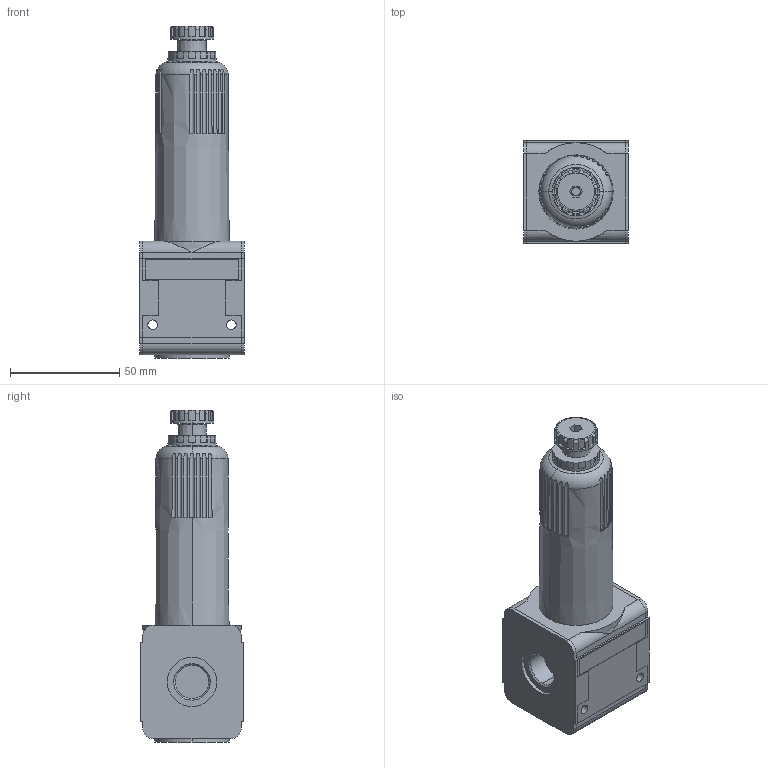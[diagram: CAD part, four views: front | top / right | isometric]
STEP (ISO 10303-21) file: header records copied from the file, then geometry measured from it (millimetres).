
FILE_DESCRIPTION((''),'2;1');
FILE_NAME('0821303440_ASM','2019-02-22T',('PDH2HC'),(''),'CREO PARAMETRIC BY PTC INC, 2016260','CREO PARAMETRIC BY PTC INC, 2016260','');
FILE_SCHEMA(('CONFIG_CONTROL_DESIGN'));
Length unit declared in the file: millimetre
Products named in the file (4): 0821303440-A; 0821303440-B; 0821303440-D; 0821303440_ASM
Assembly tree (4 placements, depth 2):
  0821303440_ASM
    0821303440-A
    0821303440-B
    0821303440-D  x2
Bounding box: 48 x 47.4 x 152 mm (x, y, z)
Volume: 185407.2 mm3; surface area: 37902.8 mm2
Topology: 4 solids, 4 shells, 290 faces, 805 edges, 533 vertices
Faces by surface type: plane 193, cylinder 83, cone 10, torus 4
Entity records: 9664 total; most frequent: CARTESIAN_POINT 2691, DIRECTION 1462, ORIENTED_EDGE 1454, EDGE_CURVE 727, AXIS2_PLACEMENT_3D 533, VERTEX_POINT 481, VECTOR 396, LINE 396
